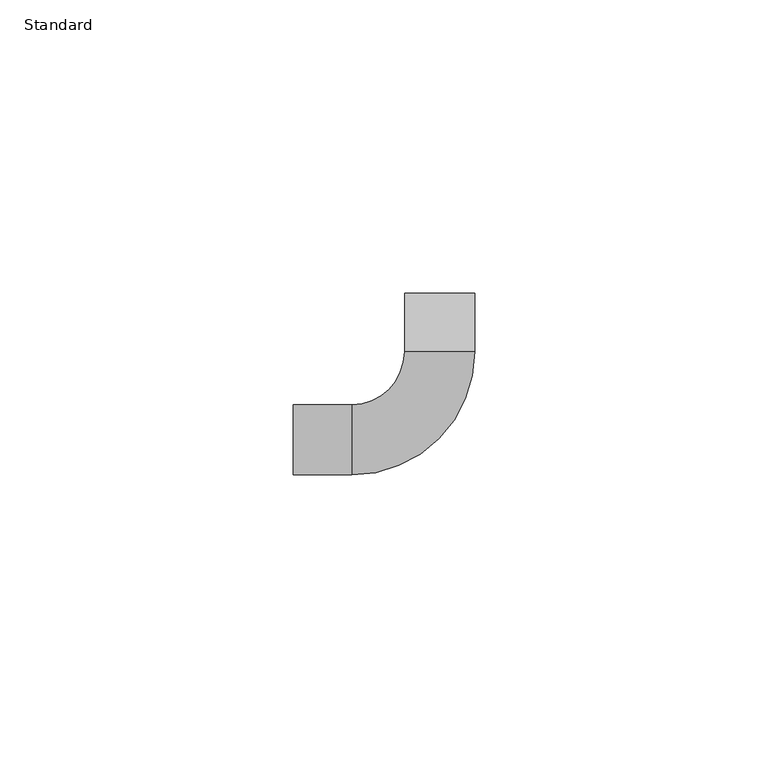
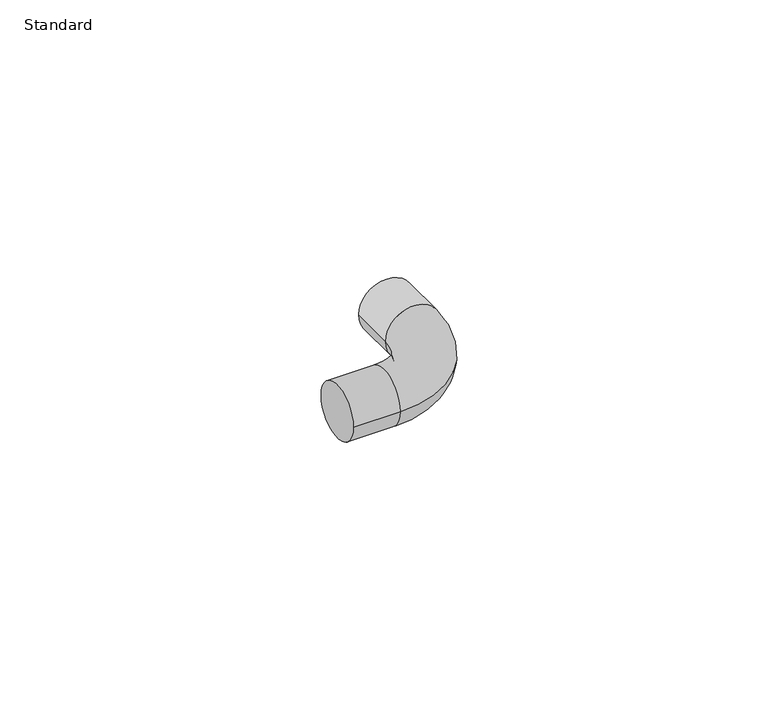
"""IFC4 building model written with IfcOpenShell, lengths in millimetres: cable carrier fitting geometry, Danfoss_Elbow : Standard."""

from ifc_helpers import new_model, si_unit, point, frame, origin, place, context, project, spatial, circle_curve, ellipse_curve, trimmed, source, transform, mapped, element, save
from ifc_brep_helpers import plane_surface, cylinder_surface, revolved_surface, advanced_brep


def standard_92e4cb31(model_context):
    return source(origin(), model_context, "Body", "AdvancedBrep", [
        advanced_brep(
        [(-25.0, -6.0, 0.0), (-25.0, 6.0, 0.0), (-15.0, -6.0, 0.0), (-15.0, 6.0, 0.0), (-6.0, 15.0, 0.0), (6.0, 15.0, 0.0), (6.0, 25.0, 0.0), (-6.0, 25.0, 0.0)],
        [
            (0, 1, circle_curve(frame((-25.0, 0.0, 0.0), z_axis=(-1.0, 0.0, 0.0), x_axis=(0.0, 1.0, 0.0)), 6.0)),
            (1, 0, circle_curve(frame((-25.0, 0.0, 0.0), z_axis=(-1.0, 0.0, 0.0), x_axis=(0.0, 1.0, 0.0)), 6.0)),
            (0, 2),
            (2, 3, circle_curve(frame((-15.0, 0.0, 0.0), z_axis=(-1.0, 0.0, 0.0), x_axis=(0.0, 1.0, 0.0)), 6.0)),
            (3, 1),
            (3, 2, circle_curve(frame((-15.0, 0.0, 0.0), z_axis=(-1.0, 0.0, 0.0), x_axis=(0.0, 1.0, 0.0)), 6.0)),
            (4, 3, circle_curve(frame((-15.0, 15.0, 0.0), z_axis=(0.0, 0.0, -1.0), x_axis=(0.0, -1.0, 0.0)), 9.0)),
            (2, 5, circle_curve(frame((-15.0, 15.0, 0.0), z_axis=(0.0, 0.0, 1.0), x_axis=(0.0, -1.0, 0.0)), 21.0)),
            (5, 4, circle_curve(frame((0.0, 15.0, 0.0), z_axis=(0.0, -1.0, 0.0), x_axis=(-1.0, 0.0, 0.0)), 6.0)),
            (4, 5, circle_curve(frame((0.0, 15.0, 0.0), z_axis=(0.0, -1.0, 0.0), x_axis=(-1.0, 0.0, 0.0)), 6.0)),
            (6, 7, circle_curve(frame((0.0, 25.0, 0.0), z_axis=(0.0, 1.0, 0.0), x_axis=(-1.0, 0.0, 0.0)), 6.0)),
            (7, 6, circle_curve(frame((0.0, 25.0, 0.0), z_axis=(0.0, 1.0, 0.0), x_axis=(-1.0, 0.0, 0.0)), 6.0)),
            (5, 6),
            (7, 4),
        ],
        [
            plane_surface(frame((-25.0, 0.0, 0.0), z_axis=(-1.0, 0.0, 0.0), x_axis=(0.0, 0.0, 1.0))),
            cylinder_surface(frame((-25.0, 0.0, 0.0), z_axis=(-1.0, 0.0, 0.0), x_axis=(0.0, 1.0, 0.0)), 6.0),
            revolved_surface(trimmed(ellipse_curve(frame((-15.0, 0.0, 0.0), z_axis=(-1.0, 0.0, 0.0), x_axis=(0.0, 1.0, 0.0)), 6.0, 6.0), [point((-15.0, -6.0, 0.0))], [point((-15.0, 6.0, 0.0))], True, "CARTESIAN"), (-15.0, 15.0, 0.0), (0.0, 0.0, 1.0)),
            revolved_surface(trimmed(ellipse_curve(frame((-15.0, 0.0, 0.0), z_axis=(-1.0, 0.0, 0.0), x_axis=(0.0, 1.0, 0.0)), 6.0, 6.0), [point((-15.0, 6.0, 0.0))], [point((-15.0, -6.0, 0.0))], True, "CARTESIAN"), (-15.0, 15.0, 0.0), (0.0, 0.0, 1.0)),
            plane_surface(frame((0.0, 25.0, 0.0), z_axis=(0.0, 1.0, 0.0), x_axis=(0.0, 0.0, 1.0))),
            cylinder_surface(frame((0.0, 15.0, 0.0), z_axis=(0.0, -1.0, 0.0), x_axis=(-1.0, 0.0, 0.0)), 6.0),
        ],
        [
            (0, [[1, 2]]),
            (1, [[-1, 3, 4, 5]]),
            (1, [[-2, -5, 6, -3]]),
            (2, [[7, -4, 8, 9]]),
            (3, [[-8, -6, -7, 10]]),
            (4, [[11, 12]]),
            (5, [[-9, 13, -12, 14]]),
            (5, [[-10, -14, -11, -13]]),
        ],
    ),
    ])


if __name__ == "__main__":
    model = new_model("IFC4")
    model_context = context("Model", 3, world=origin())
    ifc_project = project(units=[si_unit("LENGTHUNIT", "METRE", prefix="MILLI")], contexts=[model_context])
    site = spatial("IfcSite", under=ifc_project)
    building = spatial("IfcBuilding", under=site)
    placement = place(None, origin())
    standard_shape = standard_92e4cb31(model_context)
    element("IfcCableCarrierFitting", 1, ObjectType="Danfoss_Elbow : Standard", at=placement, inside=building, context=model_context, shape_type="MappedRepresentation", body=[
        mapped(standard_shape, transform((0.0, 0.0, 0.0), x_axis=(1.0, 0.0, 0.0), y_axis=(0.0, 1.0, 0.0), z_axis=(0.0, 0.0, 1.0))),
    ])
    save(model, "model.ifc")
